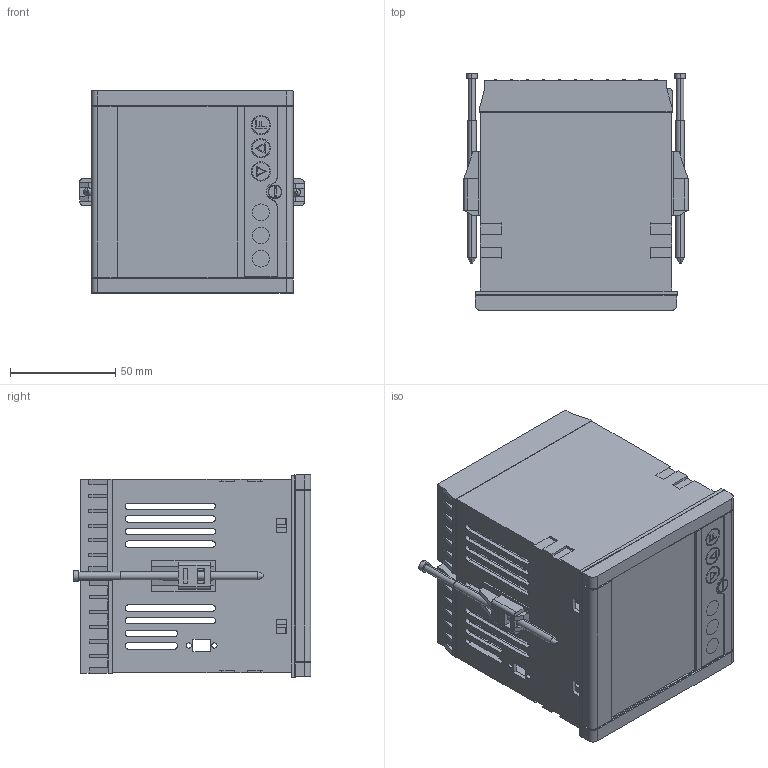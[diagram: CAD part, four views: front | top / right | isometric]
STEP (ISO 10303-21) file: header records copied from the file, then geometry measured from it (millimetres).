
FILE_DESCRIPTION((''),'2;1');
FILE_NAME('1101_ASSY','2023-07-21T15:10:06',('paolo.garatti'),('GEFRAN S.p.A'),'CREO PARAMETRIC BY PTC INC, 2018300','CREO PARAMETRIC BY PTC INC, 2018300','');
FILE_SCHEMA(('AUTOMOTIVE_DESIGN { 1 0 10303 214 1 1 1 1 }'));
Products named in the file (14): 3681D_51252; 0057D_51216; 0638D3; 51235S_FRONTALE1101; 48034_VITE_TSP_M3X26; 49044_BLOCCHETTO_CHIUSURA; 0562D_52468; 51244_VETRINO_1101; 0927D_FLA980; MIM197; 0929D2; 0927D_49030; 1101_ASSY
Assembly tree (46 placements, depth 3):
  1101_ASSY
    3681D_51252
    0057D_51216  x2
    0638D3  x32
    51235S_FRONTALE1101
    48034_VITE_TSP_M3X26
    49044_BLOCCHETTO_CHIUSURA
    0562D_52468
    51244_VETRINO_1101
      51244_VETRINO_1101
    0927D_49030  x2
      0927D_FLA980
      MIM197
      0929D2
Bounding box: 106.6 x 113.07 x 96.1 mm (x, y, z)
Volume: 153006.7 mm3; surface area: 190359.5 mm2
Topology: 46 solids, 46 shells, 5585 faces, 16012 edges, 10614 vertices
Faces by surface type: plane 5007, cylinder 542, cone 22, torus 14
Entity records: 130241 total; most frequent: CARTESIAN_POINT 15682, ORIENTED_EDGE 15194, DIRECTION 13407, PRESENTATION_STYLE_ASSIGNMENT 10015, STYLED_ITEM 9995, EDGE_CURVE 7597, CURVE_STYLE 7447, VECTOR 7093
